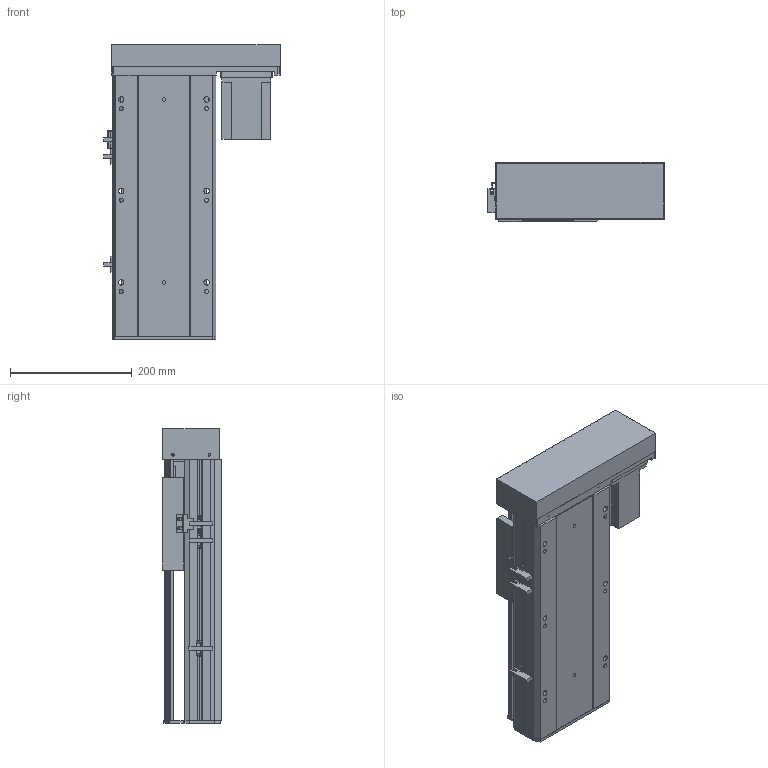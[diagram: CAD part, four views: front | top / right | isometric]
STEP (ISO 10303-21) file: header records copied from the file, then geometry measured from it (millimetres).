
FILE_DESCRIPTION (( 'STEP AP203' ), '1' );
FILE_NAME ('Y170-D10-S200-BR-P750W.STEP', '2020-01-21T12:03:20', ( '微软用户' ), ( '微软中国' ), 'SwSTEP 2.0', 'SolidWorks 2017', '' );
FILE_SCHEMA (( 'CONFIG_CONTROL_DESIGN' ));
Length unit declared in the file: millimetre
Products named in the file (12): YD-Y100-135-新外置传感挡片(通用）; Y100-135俋离換覜ん; Y170耜裔--準---; Y170-D10-S200-BR-P750W; 170--掛极-BR; Y170-BL-P750W楊擘啣; 侂狟750W; Y雄赽釱-耜蚾; EGH20賑輸_蕼偞; Y170-陔遴奻裔-BR; Y-BL.BR-俋欶; Y--BL蟀諉啣-陔遴-
Assembly tree (14 placements, depth 2):
  Y170-D10-S200-BR-P750W
    Y170耜裔--準---
    170--掛极-BR
    Y170-BL-P750W楊擘啣
    侂狟750W
    EGH20賑輸_蕼偞  x2
    Y雄赽釱-耜蚾
    Y170-陔遴奻裔-BR
    Y-BL.BR-俋欶
    Y--BL蟀諉啣-陔遴-
    YD-Y100-135-新外置传感挡片(通用）
    Y100-135俋离換覜ん  x3
Bounding box: 289 x 97 x 483.5 mm (x, y, z)
Volume: 3107381.3 mm3; surface area: 991383.2 mm2
Topology: 14 solids, 14 shells, 885 faces, 2450 edges, 1616 vertices
Faces by surface type: plane 443, cylinder 426, cone 16
Entity records: 27450 total; most frequent: CARTESIAN_POINT 4694, DIRECTION 4588, ORIENTED_EDGE 4396, EDGE_CURVE 2198, AXIS2_PLACEMENT_3D 1618, VERTEX_POINT 1460, LINE 1352, VECTOR 1352
